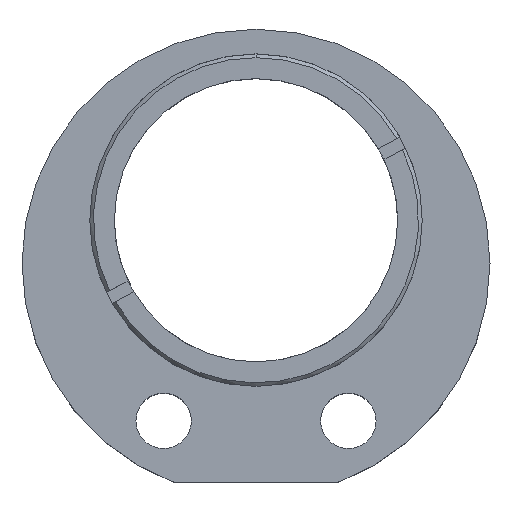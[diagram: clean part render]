
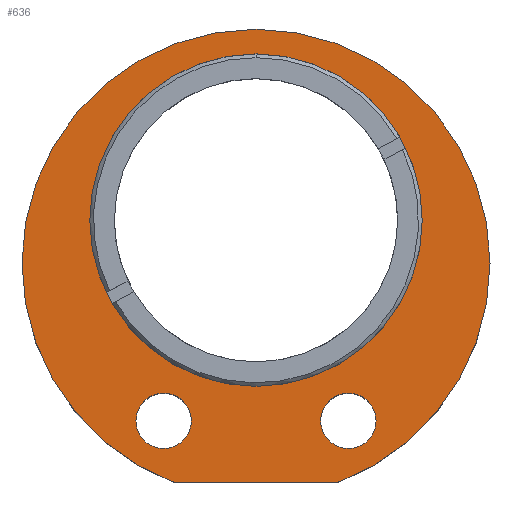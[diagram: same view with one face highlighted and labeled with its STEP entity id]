
A CAD part, top view. The second image highlights one B-rep face of the part: STEP entity #636.
In plain terms, the highlighted planar face has unit normal (0, 0, 1).
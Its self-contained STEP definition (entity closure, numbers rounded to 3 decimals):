
#85 = EDGE_CURVE ( 'NONE', #163, #86, #742, .T. ) ;
#86 = VERTEX_POINT ( 'NONE', #737 ) ;
#87 = EDGE_CURVE ( 'NONE', #180, #88, #736, .T. ) ;
#88 = VERTEX_POINT ( 'NONE', #795 ) ;
#95 = VERTEX_POINT ( 'NONE', #784 ) ;
#97 = EDGE_CURVE ( 'NONE', #95, #98, #783, .T. ) ;
#98 = VERTEX_POINT ( 'NONE', #778 ) ;
#119 = VERTEX_POINT ( 'NONE', #807 ) ;
#120 = VERTEX_POINT ( 'NONE', #806 ) ;
#163 = VERTEX_POINT ( 'NONE', #947 ) ;
#180 = VERTEX_POINT ( 'NONE', #969 ) ;
#185 = EDGE_CURVE ( 'NONE', #120, #119, #964, .T. ) ;
#194 = VERTEX_POINT ( 'NONE', #1010 ) ;
#199 = EDGE_CURVE ( 'NONE', #194, #163, #1009, .T. ) ;
#328 = EDGE_CURVE ( 'NONE', #119, #120, #1220, .T. ) ;
#419 = EDGE_CURVE ( 'NONE', #88, #180, #1355, .T. ) ;
#447 = EDGE_CURVE ( 'NONE', #98, #95, #1440, .T. ) ;
#457 = ORIENTED_EDGE ( 'NONE', *, *, #85, .F. ) ;
#458 = EDGE_LOOP ( 'NONE', ( #626, #627 ) ) ;
#548 = VERTEX_POINT ( 'NONE', #1495 ) ;
#549 = EDGE_CURVE ( 'NONE', #86, #548, #1494, .T. ) ;
#612 = ORIENTED_EDGE ( 'NONE', *, *, #419, .F. ) ;
#613 = ORIENTED_EDGE ( 'NONE', *, *, #87, .F. ) ;
#614 = EDGE_LOOP ( 'NONE', ( #615, #616 ) ) ;
#615 = ORIENTED_EDGE ( 'NONE', *, *, #447, .F. ) ;
#616 = ORIENTED_EDGE ( 'NONE', *, *, #97, .F. ) ;
#625 = ORIENTED_EDGE ( 'NONE', *, *, #199, .F. ) ;
#626 = ORIENTED_EDGE ( 'NONE', *, *, #185, .F. ) ;
#627 = ORIENTED_EDGE ( 'NONE', *, *, #328, .F. ) ;
#628 = EDGE_LOOP ( 'NONE', ( #612, #613 ) ) ;
#636 = ADVANCED_FACE ( 'NONE', ( #1592, #1591, #1590, #1589 ), #1588, .F. ) ;
#637 = EDGE_LOOP ( 'NONE', ( #638, #640, #457, #625 ) ) ;
#638 = ORIENTED_EDGE ( 'NONE', *, *, #639, .F. ) ;
#639 = EDGE_CURVE ( 'NONE', #548, #194, #1583, .T. ) ;
#640 = ORIENTED_EDGE ( 'NONE', *, *, #549, .F. ) ;
#732 = DIRECTION ( 'NONE',  ( 1., 0., 0. ) ) ;
#733 = DIRECTION ( 'NONE',  ( 0., 0., 1. ) ) ;
#734 = CARTESIAN_POINT ( 'NONE',  ( 7.5, -12.8, 12. ) ) ;
#735 = AXIS2_PLACEMENT_3D ( 'NONE', #734, #733, #732 ) ;
#736 = CIRCLE ( 'NONE', #735, 2.25 ) ;
#737 = CARTESIAN_POINT ( 'NONE',  ( 6.645, -17.8, 12. ) ) ;
#738 = DIRECTION ( 'NONE',  ( 1., 0., 0. ) ) ;
#739 = DIRECTION ( 'NONE',  ( 0., 0., -1. ) ) ;
#740 = CARTESIAN_POINT ( 'NONE',  ( 0., 0., 12. ) ) ;
#741 = AXIS2_PLACEMENT_3D ( 'NONE', #740, #739, #738 ) ;
#742 = CIRCLE ( 'NONE', #741, 19. ) ;
#778 = CARTESIAN_POINT ( 'NONE',  ( -5.25, -12.8, 12. ) ) ;
#779 = DIRECTION ( 'NONE',  ( 1., 0., 0. ) ) ;
#780 = DIRECTION ( 'NONE',  ( 0., 0., 1. ) ) ;
#781 = CARTESIAN_POINT ( 'NONE',  ( -7.5, -12.8, 12. ) ) ;
#782 = AXIS2_PLACEMENT_3D ( 'NONE', #781, #780, #779 ) ;
#783 = CIRCLE ( 'NONE', #782, 2.25 ) ;
#784 = CARTESIAN_POINT ( 'NONE',  ( -9.75, -12.8, 12. ) ) ;
#795 = CARTESIAN_POINT ( 'NONE',  ( 9.75, -12.8, 12. ) ) ;
#806 = CARTESIAN_POINT ( 'NONE',  ( -13.5, 3.5, 12. ) ) ;
#807 = CARTESIAN_POINT ( 'NONE',  ( 13.5, 3.5, 12. ) ) ;
#947 = CARTESIAN_POINT ( 'NONE',  ( 19., 0., 12. ) ) ;
#960 = DIRECTION ( 'NONE',  ( -1., 0., 0. ) ) ;
#961 = DIRECTION ( 'NONE',  ( 0., 0., 1. ) ) ;
#962 = CARTESIAN_POINT ( 'NONE',  ( 0., 3.5, 12. ) ) ;
#963 = AXIS2_PLACEMENT_3D ( 'NONE', #962, #961, #960 ) ;
#964 = CIRCLE ( 'NONE', #963, 13.5 ) ;
#969 = CARTESIAN_POINT ( 'NONE',  ( 5.25, -12.8, 12. ) ) ;
#1005 = DIRECTION ( 'NONE',  ( 1., 0., 0. ) ) ;
#1006 = DIRECTION ( 'NONE',  ( 0., 0., -1. ) ) ;
#1007 = CARTESIAN_POINT ( 'NONE',  ( 0., 0., 12. ) ) ;
#1008 = AXIS2_PLACEMENT_3D ( 'NONE', #1007, #1006, #1005 ) ;
#1009 = CIRCLE ( 'NONE', #1008, 19. ) ;
#1010 = CARTESIAN_POINT ( 'NONE',  ( -19., 0., 12. ) ) ;
#1220 = CIRCLE ( 'NONE', #1285, 13.5 ) ;
#1282 = DIRECTION ( 'NONE',  ( -1., 0., 0. ) ) ;
#1283 = DIRECTION ( 'NONE',  ( 0., 0., 1. ) ) ;
#1284 = CARTESIAN_POINT ( 'NONE',  ( 0., 3.5, 12. ) ) ;
#1285 = AXIS2_PLACEMENT_3D ( 'NONE', #1284, #1283, #1282 ) ;
#1351 = DIRECTION ( 'NONE',  ( 1., 0., 0. ) ) ;
#1352 = DIRECTION ( 'NONE',  ( 0., 0., 1. ) ) ;
#1353 = CARTESIAN_POINT ( 'NONE',  ( 7.5, -12.8, 12. ) ) ;
#1354 = AXIS2_PLACEMENT_3D ( 'NONE', #1353, #1352, #1351 ) ;
#1355 = CIRCLE ( 'NONE', #1354, 2.25 ) ;
#1436 = DIRECTION ( 'NONE',  ( 1., 0., 0. ) ) ;
#1437 = DIRECTION ( 'NONE',  ( 0., 0., 1. ) ) ;
#1438 = CARTESIAN_POINT ( 'NONE',  ( -7.5, -12.8, 12. ) ) ;
#1439 = AXIS2_PLACEMENT_3D ( 'NONE', #1438, #1437, #1436 ) ;
#1440 = CIRCLE ( 'NONE', #1439, 2.25 ) ;
#1491 = DIRECTION ( 'NONE',  ( -1., 0., 0. ) ) ;
#1492 = VECTOR ( 'NONE', #1491, 1000. ) ;
#1493 = CARTESIAN_POINT ( 'NONE',  ( 0., -17.8, 12. ) ) ;
#1494 = LINE ( 'NONE', #1493, #1492 ) ;
#1495 = CARTESIAN_POINT ( 'NONE',  ( -6.645, -17.8, 12. ) ) ;
#1579 = DIRECTION ( 'NONE',  ( 1., 0., 0. ) ) ;
#1580 = DIRECTION ( 'NONE',  ( 0., 0., -1. ) ) ;
#1581 = CARTESIAN_POINT ( 'NONE',  ( 0., 0., 12. ) ) ;
#1582 = AXIS2_PLACEMENT_3D ( 'NONE', #1581, #1580, #1579 ) ;
#1583 = CIRCLE ( 'NONE', #1582, 19. ) ;
#1584 = DIRECTION ( 'NONE',  ( -1., 0., 0. ) ) ;
#1585 = DIRECTION ( 'NONE',  ( 0., 0., -1. ) ) ;
#1586 = CARTESIAN_POINT ( 'NONE',  ( 0., 0., 12. ) ) ;
#1587 = AXIS2_PLACEMENT_3D ( 'NONE', #1586, #1585, #1584 ) ;
#1588 = PLANE ( 'NONE',  #1587 ) ;
#1589 = FACE_BOUND ( 'NONE', #614, .T. ) ;
#1590 = FACE_BOUND ( 'NONE', #628, .T. ) ;
#1591 = FACE_BOUND ( 'NONE', #458, .T. ) ;
#1592 = FACE_OUTER_BOUND ( 'NONE', #637, .T. ) ;
